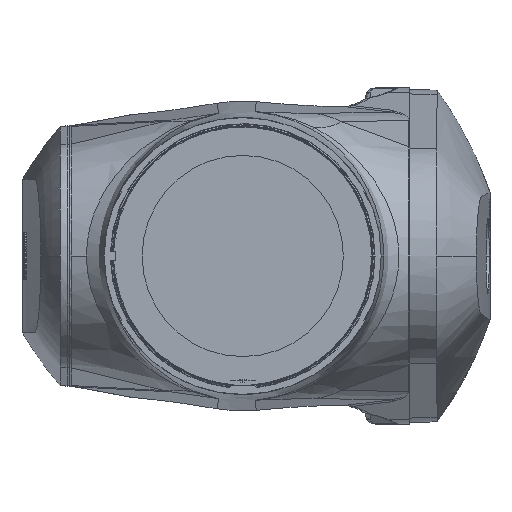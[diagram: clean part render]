
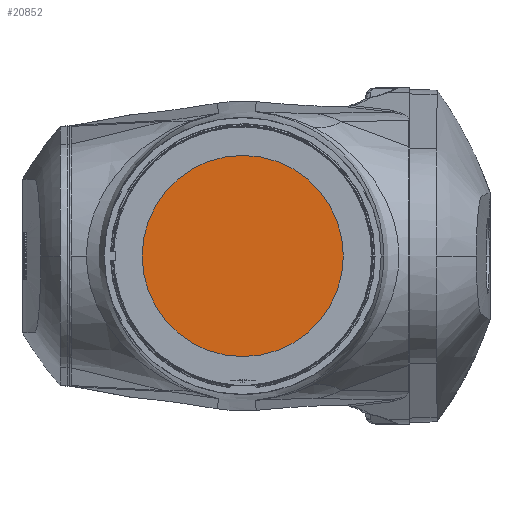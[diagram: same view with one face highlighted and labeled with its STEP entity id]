
A CAD part, left-side view. The second image highlights one B-rep face of the part: STEP entity #20852.
In plain terms, the highlighted planar face has unit normal (-1, 0, 0).
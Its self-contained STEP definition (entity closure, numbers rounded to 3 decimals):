
#623 = ORIENTED_EDGE ( 'NONE', *, *, #10353, .T. ) ;
#1635 = ORIENTED_EDGE ( 'NONE', *, *, #23389, .T. ) ;
#2181 = CARTESIAN_POINT ( 'NONE',  ( 537., 0., 1940. ) ) ;
#4386 = AXIS2_PLACEMENT_3D ( 'NONE', #28855, #28385, #38899 ) ;
#5331 = DIRECTION ( 'NONE',  ( 0., -1., 0. ) ) ;
#8502 = CARTESIAN_POINT ( 'NONE',  ( 537., -85., 1940. ) ) ;
#8521 = CARTESIAN_POINT ( 'NONE',  ( 537., 0., 1940. ) ) ;
#8611 = DIRECTION ( 'NONE',  ( 0., -1., 0. ) ) ;
#9065 = DIRECTION ( 'NONE',  ( -1., 0., 0. ) ) ;
#9527 = AXIS2_PLACEMENT_3D ( 'NONE', #2181, #9065, #8611 ) ;
#10353 = EDGE_CURVE ( 'NONE', #33339, #14052, #26369, .T. ) ;
#14052 = VERTEX_POINT ( 'NONE', #36503 ) ;
#20852 = ADVANCED_FACE ( 'NONE', ( #40121 ), #22725, .T. ) ;
#22725 = PLANE ( 'NONE',  #36429 ) ;
#23389 = EDGE_CURVE ( 'NONE', #14052, #33339, #44629, .T. ) ;
#26369 = CIRCLE ( 'NONE', #9527, 85. ) ;
#28385 = DIRECTION ( 'NONE',  ( -1., 0., 0. ) ) ;
#28855 = CARTESIAN_POINT ( 'NONE',  ( 537., 0., 1940. ) ) ;
#31176 = EDGE_LOOP ( 'NONE', ( #1635, #623 ) ) ;
#33339 = VERTEX_POINT ( 'NONE', #8502 ) ;
#36429 = AXIS2_PLACEMENT_3D ( 'NONE', #8521, #39894, #5331 ) ;
#36503 = CARTESIAN_POINT ( 'NONE',  ( 537., 85., 1940. ) ) ;
#38899 = DIRECTION ( 'NONE',  ( 0., -1., 0. ) ) ;
#39894 = DIRECTION ( 'NONE',  ( -1., 0., 0. ) ) ;
#40121 = FACE_OUTER_BOUND ( 'NONE', #31176, .T. ) ;
#44629 = CIRCLE ( 'NONE', #4386, 85. ) ;
